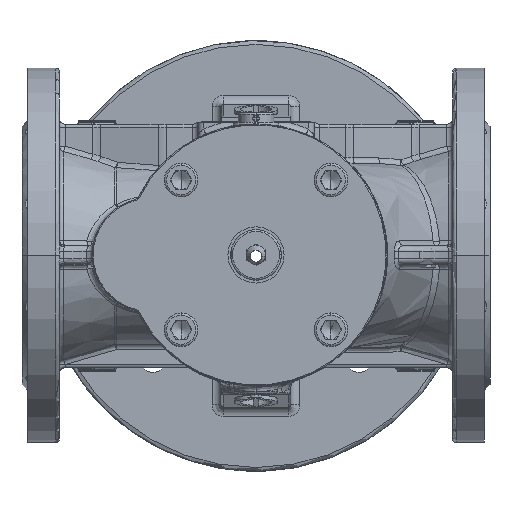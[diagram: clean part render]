
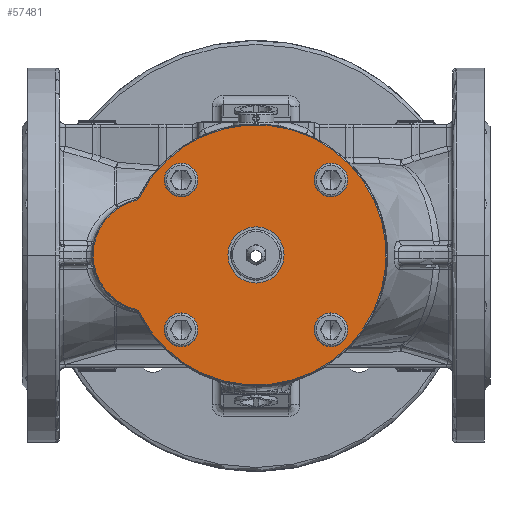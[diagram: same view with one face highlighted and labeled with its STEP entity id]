
A CAD part, top view. The second image highlights one B-rep face of the part: STEP entity #57481.
In plain terms, the highlighted planar face has unit normal (0, 0, 1).
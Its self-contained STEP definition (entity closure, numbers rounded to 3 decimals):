
#112 = DIRECTION ( 'NONE',  ( 0., 0., 1. ) ) ;
#420 = DIRECTION ( 'NONE',  ( 0., 0., -1. ) ) ;
#1671 = VERTEX_POINT ( 'NONE', #41991 ) ;
#4454 = CARTESIAN_POINT ( 'NONE',  ( 33., -40., 15. ) ) ;
#4997 = CARTESIAN_POINT ( 'NONE',  ( 15., 0., 15. ) ) ;
#5212 = DIRECTION ( 'NONE',  ( -1., 0., 0. ) ) ;
#5435 = PLANE ( 'NONE',  #17169 ) ;
#5546 = EDGE_CURVE ( 'NONE', #55574, #37237, #71016, .T. ) ;
#5655 = EDGE_LOOP ( 'NONE', ( #72710, #77558 ) ) ;
#6175 = DIRECTION ( 'NONE',  ( 0., 0., 1. ) ) ;
#6278 = CIRCLE ( 'NONE', #10288, 7. ) ;
#6844 = CARTESIAN_POINT ( 'NONE',  ( -87., 0., 15. ) ) ;
#6871 = AXIS2_PLACEMENT_3D ( 'NONE', #65618, #45555, #45151 ) ;
#9460 = AXIS2_PLACEMENT_3D ( 'NONE', #46641, #64224, #72168 ) ;
#9511 = AXIS2_PLACEMENT_3D ( 'NONE', #56656, #112, #24834 ) ;
#10288 = AXIS2_PLACEMENT_3D ( 'NONE', #11909, #36258, #5212 ) ;
#11322 = CARTESIAN_POINT ( 'NONE',  ( -28.5, 0., 15. ) ) ;
#11408 = VERTEX_POINT ( 'NONE', #53548 ) ;
#11590 = DIRECTION ( 'NONE',  ( 1., 0., 0. ) ) ;
#11691 = AXIS2_PLACEMENT_3D ( 'NONE', #71537, #24777, #59388 ) ;
#11909 = CARTESIAN_POINT ( 'NONE',  ( -40., -40., 15. ) ) ;
#12063 = EDGE_CURVE ( 'NONE', #39583, #55239, #33608, .T. ) ;
#12482 = DIRECTION ( 'NONE',  ( 0., 0., 1. ) ) ;
#12670 = CARTESIAN_POINT ( 'NONE',  ( -47., 40., 15. ) ) ;
#13563 = CARTESIAN_POINT ( 'NONE',  ( -40., -40., 15. ) ) ;
#13686 = ORIENTED_EDGE ( 'NONE', *, *, #26685, .F. ) ;
#13972 = DIRECTION ( 'NONE',  ( -1., 0., 0. ) ) ;
#15100 = CARTESIAN_POINT ( 'NONE',  ( 47., -40., 15. ) ) ;
#16238 = EDGE_LOOP ( 'NONE', ( #41074, #76978 ) ) ;
#17169 = AXIS2_PLACEMENT_3D ( 'NONE', #11322, #43998, #67862 ) ;
#17293 = EDGE_CURVE ( 'NONE', #43584, #18130, #31859, .T. ) ;
#17586 = CIRCLE ( 'NONE', #9511, 7. ) ;
#18012 = FACE_BOUND ( 'NONE', #73240, .T. ) ;
#18130 = VERTEX_POINT ( 'NONE', #15100 ) ;
#18439 = ORIENTED_EDGE ( 'NONE', *, *, #20243, .T. ) ;
#20178 = DIRECTION ( 'NONE',  ( -1., 0., 0. ) ) ;
#20243 = EDGE_CURVE ( 'NONE', #81508, #59310, #71895, .T. ) ;
#21001 = DIRECTION ( 'NONE',  ( 0., 0., 1. ) ) ;
#21069 = CIRCLE ( 'NONE', #37105, 69.5 ) ;
#21882 = CARTESIAN_POINT ( 'NONE',  ( -62.266, 30.875, 15. ) ) ;
#23545 = CARTESIAN_POINT ( 'NONE',  ( -62.266, -30.875, 15. ) ) ;
#24777 = DIRECTION ( 'NONE',  ( 0., 0., 1. ) ) ;
#24834 = DIRECTION ( 'NONE',  ( 1., 0., 0. ) ) ;
#25447 = DIRECTION ( 'NONE',  ( -1., 0., 0. ) ) ;
#25924 = CARTESIAN_POINT ( 'NONE',  ( 40., 40., 15. ) ) ;
#26243 = VERTEX_POINT ( 'NONE', #21882 ) ;
#26685 = EDGE_CURVE ( 'NONE', #1671, #45168, #33822, .T. ) ;
#26991 = EDGE_CURVE ( 'NONE', #46041, #11408, #28426, .T. ) ;
#27223 = CIRCLE ( 'NONE', #78020, 7. ) ;
#28426 = CIRCLE ( 'NONE', #52480, 7. ) ;
#29794 = FACE_BOUND ( 'NONE', #5655, .T. ) ;
#29867 = DIRECTION ( 'NONE',  ( 1., 0., 0. ) ) ;
#30214 = FACE_BOUND ( 'NONE', #54111, .T. ) ;
#30891 = CARTESIAN_POINT ( 'NONE',  ( -64.524, -29.041, 15. ) ) ;
#31278 = ORIENTED_EDGE ( 'NONE', *, *, #43264, .F. ) ;
#31342 = CARTESIAN_POINT ( 'NONE',  ( 40., -40., 15. ) ) ;
#31472 = EDGE_LOOP ( 'NONE', ( #41643, #68967, #71817, #18439, #69082 ) ) ;
#31629 = DIRECTION ( 'NONE',  ( 0., 0., 1. ) ) ;
#31859 = CIRCLE ( 'NONE', #65414, 7. ) ;
#33608 = CIRCLE ( 'NONE', #37596, 3.5 ) ;
#33822 = CIRCLE ( 'NONE', #67186, 7. ) ;
#36258 = DIRECTION ( 'NONE',  ( 0., 0., 1. ) ) ;
#36275 = EDGE_CURVE ( 'NONE', #18130, #43584, #27223, .T. ) ;
#36474 = FACE_BOUND ( 'NONE', #54827, .T. ) ;
#37105 = AXIS2_PLACEMENT_3D ( 'NONE', #58799, #31629, #57134 ) ;
#37139 = EDGE_CURVE ( 'NONE', #11408, #46041, #17586, .T. ) ;
#37237 = VERTEX_POINT ( 'NONE', #60777 ) ;
#37596 = AXIS2_PLACEMENT_3D ( 'NONE', #76634, #420, #44005 ) ;
#39468 = VERTEX_POINT ( 'NONE', #42228 ) ;
#39583 = VERTEX_POINT ( 'NONE', #30891 ) ;
#40826 = ORIENTED_EDGE ( 'NONE', *, *, #36275, .F. ) ;
#40939 = DIRECTION ( 'NONE',  ( 0., 0., 1. ) ) ;
#41074 = ORIENTED_EDGE ( 'NONE', *, *, #53237, .F. ) ;
#41566 = CARTESIAN_POINT ( 'NONE',  ( -33., -40., 15. ) ) ;
#41643 = ORIENTED_EDGE ( 'NONE', *, *, #12063, .T. ) ;
#41991 = CARTESIAN_POINT ( 'NONE',  ( 33., 40., 15. ) ) ;
#42078 = EDGE_CURVE ( 'NONE', #37237, #55574, #65638, .T. ) ;
#42228 = CARTESIAN_POINT ( 'NONE',  ( -47., -40., 15. ) ) ;
#42766 = FACE_BOUND ( 'NONE', #16238, .T. ) ;
#42962 = AXIS2_PLACEMENT_3D ( 'NONE', #59757, #40939, #53481 ) ;
#43015 = CIRCLE ( 'NONE', #55060, 30. ) ;
#43220 = EDGE_CURVE ( 'NONE', #59310, #39583, #43015, .T. ) ;
#43264 = EDGE_CURVE ( 'NONE', #45168, #1671, #64379, .T. ) ;
#43456 = DIRECTION ( 'NONE',  ( 0., 0., 1. ) ) ;
#43584 = VERTEX_POINT ( 'NONE', #4454 ) ;
#43998 = DIRECTION ( 'NONE',  ( 0., 0., 1. ) ) ;
#44005 = DIRECTION ( 'NONE',  ( 1., 0., 0. ) ) ;
#44592 = DIRECTION ( 'NONE',  ( 0., 0., 1. ) ) ;
#45151 = DIRECTION ( 'NONE',  ( 1., 0., 0. ) ) ;
#45168 = VERTEX_POINT ( 'NONE', #78743 ) ;
#45555 = DIRECTION ( 'NONE',  ( 0., 0., 1. ) ) ;
#46041 = VERTEX_POINT ( 'NONE', #12670 ) ;
#46641 = CARTESIAN_POINT ( 'NONE',  ( 0., 0., 15. ) ) ;
#49092 = AXIS2_PLACEMENT_3D ( 'NONE', #13563, #44592, #13972 ) ;
#49723 = CARTESIAN_POINT ( 'NONE',  ( -40., 40., 15. ) ) ;
#51307 = EDGE_CURVE ( 'NONE', #55239, #26243, #21069, .T. ) ;
#52480 = AXIS2_PLACEMENT_3D ( 'NONE', #49723, #43456, #11590 ) ;
#53237 = EDGE_CURVE ( 'NONE', #39468, #79071, #6278, .T. ) ;
#53321 = EDGE_CURVE ( 'NONE', #79071, #39468, #63753, .T. ) ;
#53481 = DIRECTION ( 'NONE',  ( 1., 0., 0. ) ) ;
#53548 = CARTESIAN_POINT ( 'NONE',  ( -33., 40., 15. ) ) ;
#54111 = EDGE_LOOP ( 'NONE', ( #31278, #13686 ) ) ;
#54827 = EDGE_LOOP ( 'NONE', ( #62919, #40826 ) ) ;
#55060 = AXIS2_PLACEMENT_3D ( 'NONE', #75723, #12482, #55229 ) ;
#55229 = DIRECTION ( 'NONE',  ( 1., 0., 0. ) ) ;
#55234 = EDGE_CURVE ( 'NONE', #26243, #81508, #61085, .T. ) ;
#55239 = VERTEX_POINT ( 'NONE', #23545 ) ;
#55574 = VERTEX_POINT ( 'NONE', #4997 ) ;
#56656 = CARTESIAN_POINT ( 'NONE',  ( -40., 40., 15. ) ) ;
#57134 = DIRECTION ( 'NONE',  ( 1., 0., 0. ) ) ;
#57307 = DIRECTION ( 'NONE',  ( 0., 0., 1. ) ) ;
#57481 = ADVANCED_FACE ( 'NONE', ( #69087, #29794, #42766, #36474, #30214, #18012 ), #5435, .T. ) ;
#57948 = ORIENTED_EDGE ( 'NONE', *, *, #37139, .F. ) ;
#58799 = CARTESIAN_POINT ( 'NONE',  ( 0., 0., 15. ) ) ;
#59310 = VERTEX_POINT ( 'NONE', #6844 ) ;
#59388 = DIRECTION ( 'NONE',  ( 1., 0., 0. ) ) ;
#59757 = CARTESIAN_POINT ( 'NONE',  ( 0., 0., 15. ) ) ;
#60777 = CARTESIAN_POINT ( 'NONE',  ( -15., 0., 15. ) ) ;
#61085 = CIRCLE ( 'NONE', #67780, 3.5 ) ;
#61235 = CARTESIAN_POINT ( 'NONE',  ( -65.401, 32.429, 15. ) ) ;
#61648 = DIRECTION ( 'NONE',  ( 0., 0., -1. ) ) ;
#62919 = ORIENTED_EDGE ( 'NONE', *, *, #17293, .F. ) ;
#63753 = CIRCLE ( 'NONE', #49092, 7. ) ;
#64224 = DIRECTION ( 'NONE',  ( 0., 0., 1. ) ) ;
#64379 = CIRCLE ( 'NONE', #6871, 7. ) ;
#64835 = DIRECTION ( 'NONE',  ( 1., 0., 0. ) ) ;
#65414 = AXIS2_PLACEMENT_3D ( 'NONE', #31342, #6175, #25447 ) ;
#65618 = CARTESIAN_POINT ( 'NONE',  ( 40., 40., 15. ) ) ;
#65638 = CIRCLE ( 'NONE', #9460, 15. ) ;
#67186 = AXIS2_PLACEMENT_3D ( 'NONE', #25924, #57307, #64835 ) ;
#67780 = AXIS2_PLACEMENT_3D ( 'NONE', #61235, #61648, #29867 ) ;
#67862 = DIRECTION ( 'NONE',  ( 1., 0., 0. ) ) ;
#68967 = ORIENTED_EDGE ( 'NONE', *, *, #51307, .T. ) ;
#69082 = ORIENTED_EDGE ( 'NONE', *, *, #43220, .T. ) ;
#69087 = FACE_OUTER_BOUND ( 'NONE', #31472, .T. ) ;
#70621 = CARTESIAN_POINT ( 'NONE',  ( -64.524, 29.041, 15. ) ) ;
#71016 = CIRCLE ( 'NONE', #42962, 15. ) ;
#71537 = CARTESIAN_POINT ( 'NONE',  ( -57., 0., 15. ) ) ;
#71682 = CARTESIAN_POINT ( 'NONE',  ( 40., -40., 15. ) ) ;
#71817 = ORIENTED_EDGE ( 'NONE', *, *, #55234, .T. ) ;
#71895 = CIRCLE ( 'NONE', #11691, 30. ) ;
#72168 = DIRECTION ( 'NONE',  ( 1., 0., 0. ) ) ;
#72710 = ORIENTED_EDGE ( 'NONE', *, *, #5546, .F. ) ;
#73240 = EDGE_LOOP ( 'NONE', ( #57948, #80644 ) ) ;
#75723 = CARTESIAN_POINT ( 'NONE',  ( -57., 0., 15. ) ) ;
#76634 = CARTESIAN_POINT ( 'NONE',  ( -65.401, -32.429, 15. ) ) ;
#76978 = ORIENTED_EDGE ( 'NONE', *, *, #53321, .F. ) ;
#77558 = ORIENTED_EDGE ( 'NONE', *, *, #42078, .F. ) ;
#78020 = AXIS2_PLACEMENT_3D ( 'NONE', #71682, #21001, #20178 ) ;
#78743 = CARTESIAN_POINT ( 'NONE',  ( 47., 40., 15. ) ) ;
#79071 = VERTEX_POINT ( 'NONE', #41566 ) ;
#80644 = ORIENTED_EDGE ( 'NONE', *, *, #26991, .F. ) ;
#81508 = VERTEX_POINT ( 'NONE', #70621 ) ;
